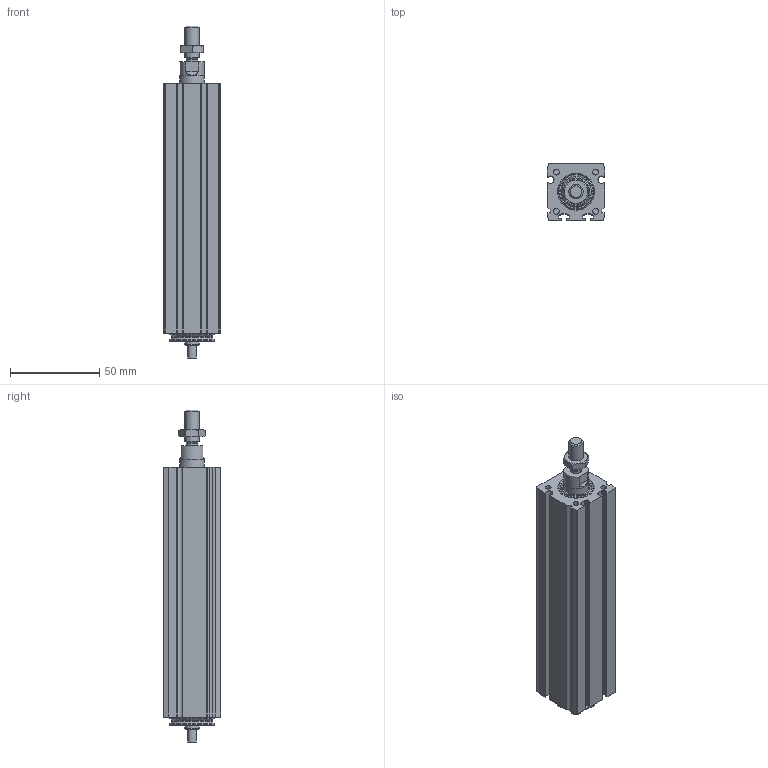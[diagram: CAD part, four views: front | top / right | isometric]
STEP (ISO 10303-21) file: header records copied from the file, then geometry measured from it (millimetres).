
FILE_DESCRIPTION(/* description */ ('STEP AP214'),/* implementation_level */ '2;1');
FILE_NAME(/* name */ 'MCE 32 0802 75 0(0)',/* time_stamp */ '2023-10-05T14:06:34+02:00',/* author */ ('License CC BY-ND 4.0'),/* organization */ ('CADENAS'),/* preprocessor_version */ 'ST-DEVELOPER v19.3',/* originating_system */ 'PARTsolutions',/* authorisation */ ' ');
FILE_SCHEMA (('AUTOMOTIVE_DESIGN {1 0 10303 214 3 1 1}'));
Length unit declared in the file: millimetre
Products named in the file (4): MCE 32 0802 75  0(0); 32_nut; 32(750)_rod; 32(75)_msc
Assembly tree (3 placements, depth 2):
  MCE 32 0802 75  0(0)
    32_nut
    32(750)_rod
    32(75)_msc
Bounding box: 32 x 32 x 186 mm (x, y, z)
Volume: 113680 mm3; surface area: 46426.1 mm2
Topology: 3 solids, 3 shells, 205 faces, 503 edges, 326 vertices
Faces by surface type: cylinder 89, plane 88, cone 23, torus 5
Full cylindrical faces by diameter (mm): 2.459 x4, 3.242 x4, 5 x1, 6.5 x1, 6.647 x1, 8 x2, 10 x1, 13.8 x1, 14 x2, 17.46 x1, 19.5 x1, 24.5 x2, 25 x2
Entity records: 6017 total; most frequent: CARTESIAN_POINT 1087, DIRECTION 1064, ORIENTED_EDGE 924, EDGE_CURVE 462, AXIS2_PLACEMENT_3D 419, VERTEX_POINT 324, EDGE_LOOP 268, FACE_BOUND 268
